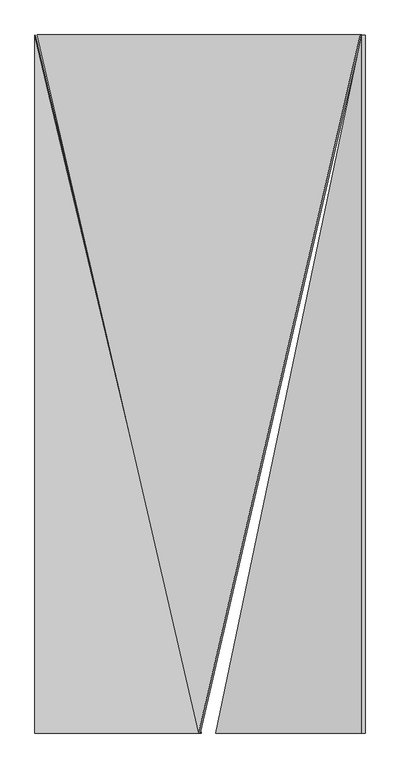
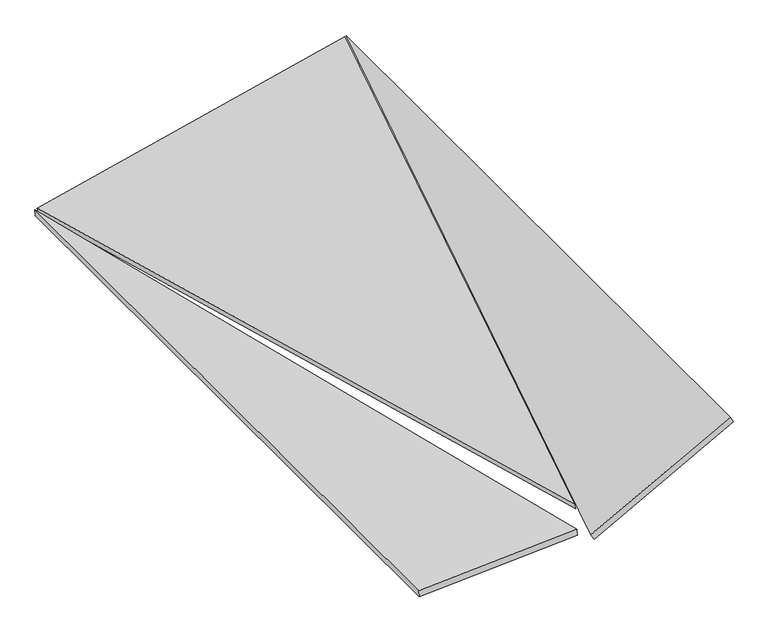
"""IFC4 building model written with IfcOpenShell, lengths in millimetres: proxy geometry, panel sufitowy 6 : panel sufitowy 6."""

from ifc_helpers import new_model, si_unit, frame, origin, place, context, project, spatial, polyline, outline, extrude, source, transform, mapped, element, save


def generic_models_9de98600(model_context):
    return source(origin(), model_context, "Body", "SweptSolid", [
        extrude(outline(polyline([(-900.9098917, 0.0), (1235.4098448, 0.0), (1006.1909889, -962.7191946), (-900.9098917, 0.0)])), frame((541.0381858, -1457.4151922, 1313.9862693), z_axis=(-0.2334453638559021, 0.0, 0.9723699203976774), x_axis=(-0.22522083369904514, 0.9728062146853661, -0.05407073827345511)), (0.0, 0.0, 1.0), 20.0),
        extrude(outline(polyline([(-127.4999999, 0.0), (-622.5, 0.0), (-127.4999999, 2079.0), (-127.4999999, 0.0)])), frame((1346.7660384, -2335.0, 1541.3615257), z_axis=(-0.47715876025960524, 0.0, 0.8788171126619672), x_axis=(0.8788171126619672, 0.0, 0.47715876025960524)), (0.0, 0.0, 1.0), 20.0),
        extrude(outline(polyline([(-127.5, 0.0), (-127.5, -2079.0), (-622.5, 0.0), (-127.5, 0.0)])), frame((125.3610502, -2335.0, 1236.9602775), z_axis=(-0.06104853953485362, 0.0, 0.9981347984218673), x_axis=(-0.9981347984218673, 0.0, -0.06104853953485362)), (0.0, 0.0, 1.0), 20.0),
    ])


if __name__ == "__main__":
    model = new_model("IFC4")
    model_context = context("Model", 3, world=origin())
    ifc_project = project(units=[si_unit("LENGTHUNIT", "METRE", prefix="MILLI")], contexts=[model_context])
    site = spatial("IfcSite", under=ifc_project)
    building = spatial("IfcBuilding", under=site)
    placement = place(None, origin())
    generic_models_shape = generic_models_9de98600(model_context)
    element("IfcBuildingElementProxy", 1, Name="panel sufitowy 6 : panel sufitowy 6", ObjectType="panel sufitowy 6 : panel sufitowy 6", at=placement, inside=building, context=model_context, shape_type="MappedRepresentation", body=[
        mapped(generic_models_shape, transform((0.0, 0.0, 0.0), x_axis=(1.0, 0.0, 0.0), y_axis=(0.0, 1.0, 0.0), z_axis=(0.0, 0.0, 1.0))),
    ])
    save(model, "model.ifc")
